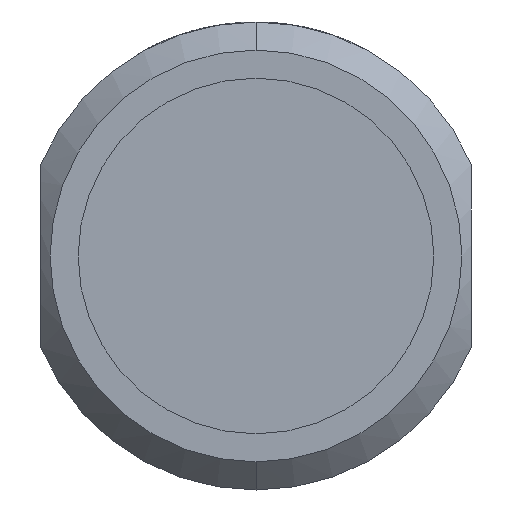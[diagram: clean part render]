
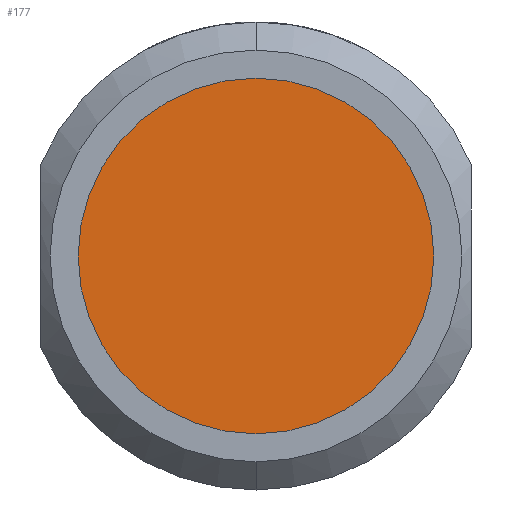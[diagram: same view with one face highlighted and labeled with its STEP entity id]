
A CAD part, front view. The second image highlights one B-rep face of the part: STEP entity #177.
In plain terms, the highlighted planar face has unit normal (0, -1, 0).
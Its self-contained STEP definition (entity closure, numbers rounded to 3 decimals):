
#159 = CARTESIAN_POINT ( 'NONE',  ( 0., 10., 9.5 ) ) ;
#177 = ADVANCED_FACE ( 'NONE', ( #2173 ), #2174, .T. ) ;
#734 = EDGE_CURVE ( 'NONE', #1719, #1148, #2724, .T. ) ;
#1148 = VERTEX_POINT ( 'NONE', #159 ) ;
#1719 = VERTEX_POINT ( 'NONE', #2939 ) ;
#2173 = FACE_OUTER_BOUND ( 'NONE', #5235, .T. ) ;
#2174 = PLANE ( 'NONE',  #2175 ) ;
#2175 = AXIS2_PLACEMENT_3D ( 'NONE', #2176, #2177, #2178 ) ;
#2176 = CARTESIAN_POINT ( 'NONE',  ( 0., 10., 0. ) ) ;
#2177 = DIRECTION ( 'NONE',  ( 0., -1., 0. ) ) ;
#2178 = DIRECTION ( 'NONE',  ( 0., 0., -1. ) ) ;
#2724 = CIRCLE ( 'NONE', #2725, 9.5 ) ;
#2725 = AXIS2_PLACEMENT_3D ( 'NONE', #2726, #2727, #2728 ) ;
#2726 = CARTESIAN_POINT ( 'NONE',  ( 0., 10., 0. ) ) ;
#2727 = DIRECTION ( 'NONE',  ( 0., -1., 0. ) ) ;
#2728 = DIRECTION ( 'NONE',  ( 0., 0., -1. ) ) ;
#2939 = CARTESIAN_POINT ( 'NONE',  ( 0., 10., -9.5 ) ) ;
#4241 = ORIENTED_EDGE ( 'NONE', *, *, #4914, .T. ) ;
#4711 = CIRCLE ( 'NONE', #4712, 9.5 ) ;
#4712 = AXIS2_PLACEMENT_3D ( 'NONE', #4713, #4714, #4715 ) ;
#4713 = CARTESIAN_POINT ( 'NONE',  ( 0., 10., 0. ) ) ;
#4714 = DIRECTION ( 'NONE',  ( 0., -1., 0. ) ) ;
#4715 = DIRECTION ( 'NONE',  ( 0., 0., -1. ) ) ;
#4735 = ORIENTED_EDGE ( 'NONE', *, *, #734, .T. ) ;
#4914 = EDGE_CURVE ( 'NONE', #1148, #1719, #4711, .T. ) ;
#5235 = EDGE_LOOP ( 'NONE', ( #4735, #4241 ) ) ;
